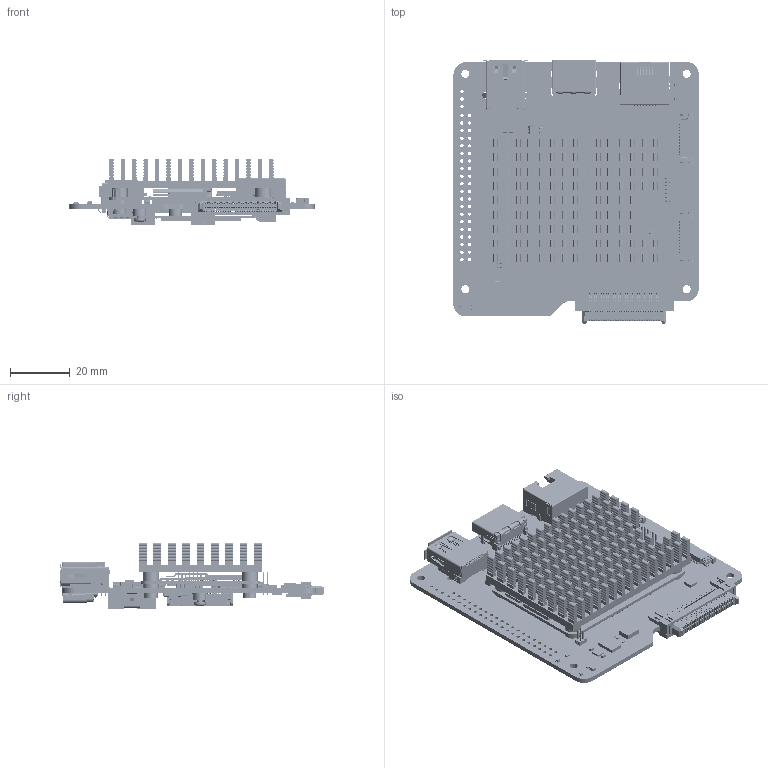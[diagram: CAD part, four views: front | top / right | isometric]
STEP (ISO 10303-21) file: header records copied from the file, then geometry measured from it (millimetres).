
FILE_DESCRIPTION(/* description */ ('STEP AP242 Edition 2','CAx-IF Rec.Pracs.---Representation and Presentation of Product Manufacturing Information (PMI)---4.0---2014-10-13','CAx-IF Rec.Pracs.---3D Tessellated Geometry---0.4---2014-09-14','2;1','CAx-IF Rec.Pracs.---User Defined Attributes---1.5---2016-08-15'),/* implementation_level */ '2;1');
FILE_NAME(/* name */ '6a313787296c180311aa0763',/* time_stamp */ '2026-06-16T11:46:40Z',/* author */ (''),/* organization */ (''),/* preprocessor_version */ 'ST-DEVELOPER v20',/* originating_system */ 'ONSHAPE BY PTC INC, 1.216',/* authorisation */ ' ');
FILE_SCHEMA (('AP242_MANAGED_MODEL_BASED_3D_ENGINEERING_MIM_LF { 1 0 10303 442 3 1 4 }'));
Products named in the file (1446): EXP Board; NF E 25-111 - M2.5x8 Property Class 4.8; SSD; Cooler_RPI_CM5; 68712214022 (rev1) (1) <1>; 6871xx14022_PIN; 6871xx14022_Patte; 68712214022; 68712214022_CAP; 6871xx14022_Patte_2; NF E 25-109 - M2 x 4; Download_STP_685119134923 (rev1) <1>; 685119134923_Pin2; 685119134923_Pin1; 685119134923_Shielding; 685119134923_Housing; 68712214022 (rev1) <1>; 79527141 (rev1) <1>; DEFAULT <1>; DEFAULT; DEFAULT_2; DEFAULT_1; CM5 <1>; DIELECTRIC (1 bodies) <1>; DIELECTRIC_Model_1_Inst; Components <1>; ComponentsBottom <1>; Pins; User Library-153BallWFBGA; SOT883B4 LF; Plating; Part_637; CAP0603.step; Body_3; 10164228-1001A1RLF.stp; LDF; Lid_1; Pads_1; Part_553; Part_525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
Assembly tree (2033 placements, depth 6):
  EXP Board
    NF E 25-111 - M2.5x8 Property Class 4.8  x4
    SSD
    Cooler_RPI_CM5
    68712214022 (rev1) (1) <1>
      6871xx14022_PIN  x22
      6871xx14022_Patte
      68712214022
      68712214022_CAP
      6871xx14022_Patte_2
    NF E 25-109 - M2 x 4
    Download_STP_685119134923 (rev1) <1>
      685119134923_Pin2  x9
      685119134923_Pin1  x10
      685119134923_Shielding
      685119134923_Housing
    68712214022 (rev1) <1>
      6871xx14022_PIN  x22
      68712214022
      6871xx14022_Patte
      68712214022_CAP
      6871xx14022_Patte_2
    79527141 (rev1) <1>
      DEFAULT <1>
        DEFAULT
        DEFAULT
        DEFAULT
        DEFAULT_2
        DEFAULT_1
        DEFAULT_2
        DEFAULT_1
        DEFAULT_1
        DEFAULT
        DEFAULT_2
        DEFAULT_1
        DEFAULT_1
        DEFAULT_1
        DEFAULT
        DEFAULT
        DEFAULT
        DEFAULT_2
        DEFAULT_1
        DEFAULT_1
        DEFAULT_2
        DEFAULT_1
        DEFAULT_2
        DEFAULT_1
        DEFAULT
        DEFAULT_1
        DEFAULT_2
        DEFAULT
        DEFAULT_1
        DEFAULT_1
        DEFAULT_1
        DEFAULT_1
        DEFAULT_1
        DEFAULT_1
        DEFAULT_2
        DEFAULT_1
        DEFAULT_1
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Bounding box: 82 x 88.52 x 22.37 mm (x, y, z)
Volume: 28788.4 mm3; surface area: 58684.5 mm2
Topology: 1615 solids, 1934 shells, 36917 faces, 98357 edges, 63755 vertices
Faces by surface type: plane 23250, cylinder 10959, sphere 1428, bspline 1008, torus 201, cone 71
Full cylindrical faces by diameter (mm): 0.035 x4, 0.13 x1, 0.15 x2, 0.275 x1, 0.3 x155, 0.35 x1, 0.4 x1, 0.411 x1, 0.5 x1, 0.65 x19, 0.7 x9, 0.8 x1, 1 x1, 1.1 x44, 1.2 x1, 1.4 x4, 1.45 x1, 1.567 x2, 1.6 x1, 1.7 x1, 1.75 x1, 1.84 x1, 1.855 x1, 1.9 x5, 2 x3, 2.013 x4, 2.05 x4, 2.2 x4, 2.3 x2, 2.5 x4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
Entity records: 780814 total; most frequent: CARTESIAN_POINT 143890, DIRECTION 121813, ORIENTED_EDGE 119584, EDGE_CURVE 60611, LINE 43669, VECTOR 43669, VERTEX_POINT 40708, AXIS2_PLACEMENT_3D 39072
